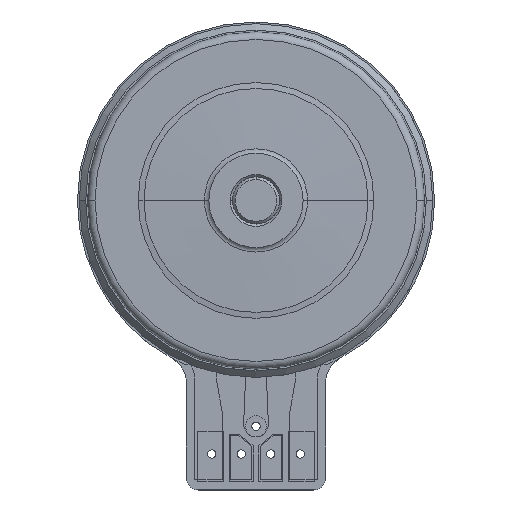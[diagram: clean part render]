
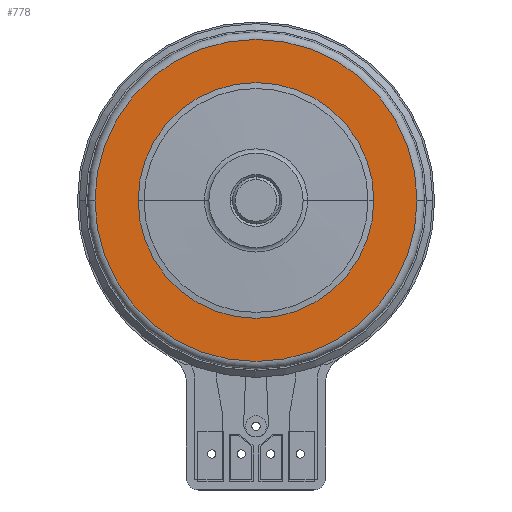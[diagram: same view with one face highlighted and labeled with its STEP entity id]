
A CAD part, top view. The second image highlights one B-rep face of the part: STEP entity #778.
In plain terms, the highlighted planar face has unit normal (0, 0, 1).
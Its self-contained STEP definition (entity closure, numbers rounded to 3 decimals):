
#648 = ORIENTED_EDGE ( 'NONE', *, *, #4925, .F. ) ;
#695 = ORIENTED_EDGE ( 'NONE', *, *, #4931, .T. ) ;
#725 = ORIENTED_EDGE ( 'NONE', *, *, #4911, .T. ) ;
#743 = ORIENTED_EDGE ( 'NONE', *, *, #4921, .F. ) ;
#778 = ADVANCED_FACE ( 'NONE', ( #2734, #2735 ), #6288, .F. ) ;
#929 = CIRCLE ( 'NONE', #3459, 10. ) ;
#934 = CIRCLE ( 'NONE', #3463, 10. ) ;
#942 = CIRCLE ( 'NONE', #3467, 13.66 ) ;
#1774 = AXIS2_PLACEMENT_3D ( 'NONE', #6266, #6267, #6298 ) ;
#1935 = VERTEX_POINT ( 'NONE', #3733 ) ;
#2033 = VERTEX_POINT ( 'NONE', #3831 ) ;
#2067 = VERTEX_POINT ( 'NONE', #3865 ) ;
#2070 = VERTEX_POINT ( 'NONE', #3868 ) ;
#2734 = FACE_OUTER_BOUND ( 'NONE', #4405, .T. ) ;
#2735 = FACE_BOUND ( 'NONE', #4285, .T. ) ;
#3453 = AXIS2_PLACEMENT_3D ( 'NONE', #7379, #7380, #7381 ) ;
#3459 = AXIS2_PLACEMENT_3D ( 'NONE', #7405, #7406, #7407 ) ;
#3463 = AXIS2_PLACEMENT_3D ( 'NONE', #7419, #7420, #7421 ) ;
#3467 = AXIS2_PLACEMENT_3D ( 'NONE', #7434, #7435, #7436 ) ;
#3733 = CARTESIAN_POINT ( 'NONE',  ( 12.114, 5.785, 6.652 ) ) ;
#3831 = CARTESIAN_POINT ( 'NONE',  ( -15.206, 5.785, 6.652 ) ) ;
#3865 = CARTESIAN_POINT ( 'NONE',  ( -11.546, 5.785, 6.652 ) ) ;
#3868 = CARTESIAN_POINT ( 'NONE',  ( 8.454, 5.785, 6.652 ) ) ;
#4285 = EDGE_LOOP ( 'NONE', ( #743, #648 ) ) ;
#4405 = EDGE_LOOP ( 'NONE', ( #725, #695 ) ) ;
#4911 = EDGE_CURVE ( 'NONE', #2033, #1935, #6805, .T. ) ;
#4921 = EDGE_CURVE ( 'NONE', #2067, #2070, #929, .T. ) ;
#4925 = EDGE_CURVE ( 'NONE', #2070, #2067, #934, .T. ) ;
#4931 = EDGE_CURVE ( 'NONE', #1935, #2033, #942, .T. ) ;
#6266 = CARTESIAN_POINT ( 'NONE',  ( -1.546, 20.085, 6.652 ) ) ;
#6267 = DIRECTION ( 'NONE',  ( 0., 0., -1. ) ) ;
#6288 = PLANE ( 'NONE',  #1774 ) ;
#6298 = DIRECTION ( 'NONE',  ( -1., 0., 0. ) ) ;
#6805 = CIRCLE ( 'NONE', #3453, 13.66 ) ;
#7379 = CARTESIAN_POINT ( 'NONE',  ( -1.546, 5.785, 6.652 ) ) ;
#7380 = DIRECTION ( 'NONE',  ( 0., 0., 1. ) ) ;
#7381 = DIRECTION ( 'NONE',  ( -1., 0., 0. ) ) ;
#7405 = CARTESIAN_POINT ( 'NONE',  ( -1.546, 5.785, 6.652 ) ) ;
#7406 = DIRECTION ( 'NONE',  ( 0., 0., 1. ) ) ;
#7407 = DIRECTION ( 'NONE',  ( 1., 0., 0. ) ) ;
#7419 = CARTESIAN_POINT ( 'NONE',  ( -1.546, 5.785, 6.652 ) ) ;
#7420 = DIRECTION ( 'NONE',  ( 0., 0., 1. ) ) ;
#7421 = DIRECTION ( 'NONE',  ( 1., 0., 0. ) ) ;
#7434 = CARTESIAN_POINT ( 'NONE',  ( -1.546, 5.785, 6.652 ) ) ;
#7435 = DIRECTION ( 'NONE',  ( 0., 0., 1. ) ) ;
#7436 = DIRECTION ( 'NONE',  ( -1., 0., 0. ) ) ;
